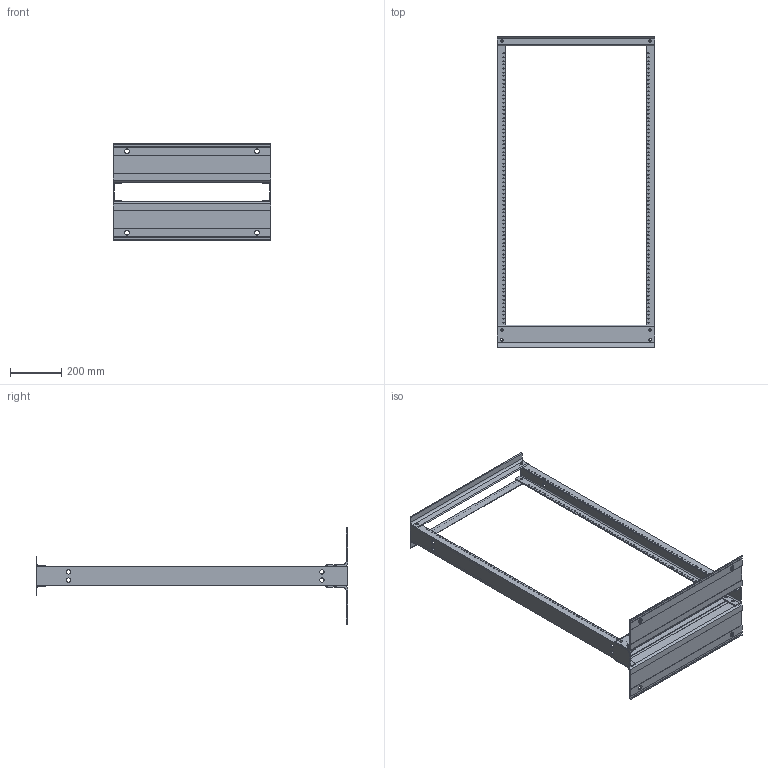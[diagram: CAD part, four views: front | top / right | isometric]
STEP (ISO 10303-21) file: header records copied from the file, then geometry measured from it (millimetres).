
FILE_DESCRIPTION (( 'STEP AP203' ), '1' );
FILE_NAME ('edr23fm24u.STEP', '2013-09-24T18:56:05', ( 'User' ), ( 'Pentair Inc' ), 'SwSTEP 2.0', 'SolidWorks 2010', '' );
FILE_SCHEMA (( 'CONFIG_CONTROL_DESIGN' ));
Length unit declared in the file: inch
Products named in the file (4): edr23fm24u; 87798809_87949170; 87952138_87952138; 87952141_87952141
Assembly tree (6 placements, depth 2):
  edr23fm24u
    87952138_87952138  x2
    87952141_87952141  x2
    87798809_87949170  x2
Bounding box: 616.76 x 1219.2 x 381 mm (x, y, z)
Volume: 3239086.1 mm3; surface area: 1434174.3 mm2
Topology: 6 solids, 6 shells, 744 faces, 2196 edges, 1464 vertices
Faces by surface type: cylinder 664, plane 80
Entity records: 13972 total; most frequent: DIRECTION 2524, CARTESIAN_POINT 2211, ORIENTED_EDGE 2196, EDGE_CURVE 1098, AXIS2_PLACEMENT_3D 1045, VERTEX_POINT 732, EDGE_LOOP 696, CIRCLE 664
